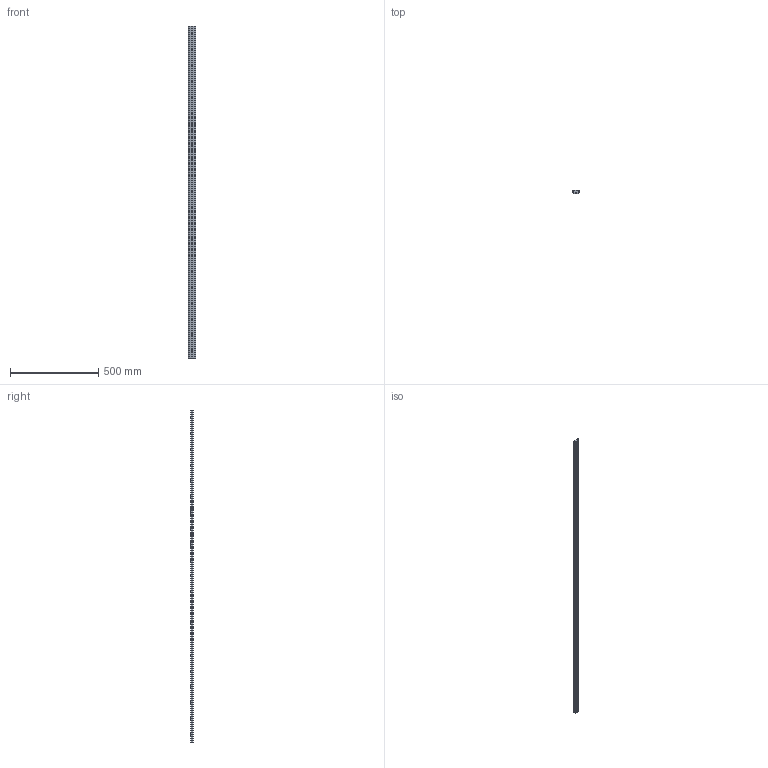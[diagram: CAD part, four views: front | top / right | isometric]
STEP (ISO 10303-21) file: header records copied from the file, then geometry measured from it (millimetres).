
FILE_DESCRIPTION(('STEP AP203'),'1');
FILE_NAME('slide_nm44l1886p2.stp','2022-07-01T04:40:04',('TraceParts'),('TraceParts S.A.'),'Spatial InterOp 3D',' ',' ');
FILE_SCHEMA(('CONFIG_CONTROL_DESIGN'));
Length unit declared in the file: millimetre
Products named in the file (1): 1
Bounding box: 43.61 x 15.91 x 1886 mm (x, y, z)
Volume: 824761.3 mm3; surface area: 230879.6 mm2
Topology: 1 solids, 1 shells, 137 faces, 342 edges, 228 vertices
Faces by surface type: cylinder 98, plane 39
Entity records: 4320 total; most frequent: DIRECTION 814, CARTESIAN_POINT 708, ORIENTED_EDGE 684, EDGE_CURVE 342, AXIS2_PLACEMENT_3D 334, VERTEX_POINT 228, EDGE_LOOP 200, CIRCLE 196
